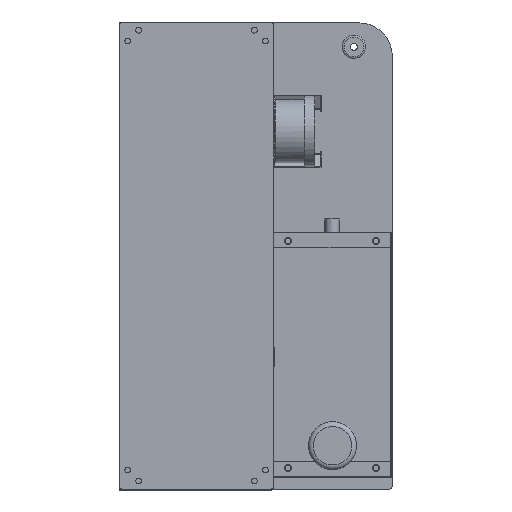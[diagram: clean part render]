
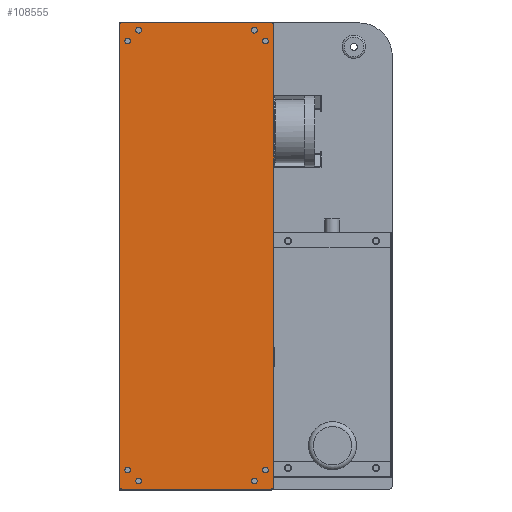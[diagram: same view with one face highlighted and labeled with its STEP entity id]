
A CAD part, top view. The second image highlights one B-rep face of the part: STEP entity #108555.
In plain terms, the highlighted planar face has unit normal (0, 0, 1).
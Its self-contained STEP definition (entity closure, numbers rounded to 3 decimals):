
#2511=FACE_BOUND('',#17659,.T.);
#2512=FACE_BOUND('',#17660,.T.);
#2513=FACE_BOUND('',#17661,.T.);
#2514=FACE_BOUND('',#17662,.T.);
#2515=FACE_BOUND('',#17663,.T.);
#2516=FACE_BOUND('',#17664,.T.);
#2517=FACE_BOUND('',#17665,.T.);
#2518=FACE_BOUND('',#17666,.T.);
#4809=CIRCLE('',#116287,3.);
#4811=CIRCLE('',#116291,3.);
#4813=CIRCLE('',#116295,3.);
#4815=CIRCLE('',#116299,3.);
#4817=CIRCLE('',#116302,3.);
#4819=CIRCLE('',#116305,3.);
#4821=CIRCLE('',#116308,3.);
#4823=CIRCLE('',#116311,3.);
#4825=CIRCLE('',#116314,3.);
#4827=CIRCLE('',#116317,3.);
#4829=CIRCLE('',#116320,3.);
#4831=CIRCLE('',#116323,3.);
#10996=FACE_OUTER_BOUND('',#17658,.T.);
#17658=EDGE_LOOP('',(#98763,#98764,#98765,#98766,#98767,#98768,#98769,#98770));
#17659=EDGE_LOOP('',(#98771));
#17660=EDGE_LOOP('',(#98772));
#17661=EDGE_LOOP('',(#98773));
#17662=EDGE_LOOP('',(#98774));
#17663=EDGE_LOOP('',(#98775));
#17664=EDGE_LOOP('',(#98776));
#17665=EDGE_LOOP('',(#98777));
#17666=EDGE_LOOP('',(#98778));
#30088=LINE('',#190266,#42523);
#30092=LINE('',#190278,#42527);
#30096=LINE('',#190290,#42531);
#30100=LINE('',#190302,#42535);
#42523=VECTOR('',#143895,1.);
#42527=VECTOR('',#143907,1.);
#42531=VECTOR('',#143919,1.);
#42535=VECTOR('',#143931,1.);
#52719=VERTEX_POINT('',#190260);
#52721=VERTEX_POINT('',#190264);
#52723=VERTEX_POINT('',#190270);
#52725=VERTEX_POINT('',#190276);
#52727=VERTEX_POINT('',#190282);
#52729=VERTEX_POINT('',#190288);
#52731=VERTEX_POINT('',#190294);
#52733=VERTEX_POINT('',#190300);
#52735=VERTEX_POINT('',#190309);
#52737=VERTEX_POINT('',#190315);
#52739=VERTEX_POINT('',#190321);
#52741=VERTEX_POINT('',#190327);
#52743=VERTEX_POINT('',#190333);
#52745=VERTEX_POINT('',#190339);
#52747=VERTEX_POINT('',#190345);
#52749=VERTEX_POINT('',#190351);
#68056=EDGE_CURVE('',#52719,#52721,#30088,.T.);
#68059=EDGE_CURVE('',#52721,#52723,#4809,.T.);
#68062=EDGE_CURVE('',#52723,#52725,#30092,.T.);
#68065=EDGE_CURVE('',#52725,#52727,#4811,.T.);
#68068=EDGE_CURVE('',#52727,#52729,#30096,.T.);
#68071=EDGE_CURVE('',#52729,#52731,#4813,.T.);
#68074=EDGE_CURVE('',#52731,#52733,#30100,.T.);
#68076=EDGE_CURVE('',#52733,#52719,#4815,.T.);
#68079=EDGE_CURVE('',#52735,#52735,#4817,.T.);
#68082=EDGE_CURVE('',#52737,#52737,#4819,.T.);
#68085=EDGE_CURVE('',#52739,#52739,#4821,.T.);
#68088=EDGE_CURVE('',#52741,#52741,#4823,.T.);
#68091=EDGE_CURVE('',#52743,#52743,#4825,.T.);
#68094=EDGE_CURVE('',#52745,#52745,#4827,.T.);
#68097=EDGE_CURVE('',#52747,#52747,#4829,.T.);
#68100=EDGE_CURVE('',#52749,#52749,#4831,.T.);
#98763=ORIENTED_EDGE('',*,*,#68056,.T.);
#98764=ORIENTED_EDGE('',*,*,#68059,.T.);
#98765=ORIENTED_EDGE('',*,*,#68062,.T.);
#98766=ORIENTED_EDGE('',*,*,#68065,.T.);
#98767=ORIENTED_EDGE('',*,*,#68068,.T.);
#98768=ORIENTED_EDGE('',*,*,#68071,.T.);
#98769=ORIENTED_EDGE('',*,*,#68074,.T.);
#98770=ORIENTED_EDGE('',*,*,#68076,.T.);
#98771=ORIENTED_EDGE('',*,*,#68079,.F.);
#98772=ORIENTED_EDGE('',*,*,#68082,.F.);
#98773=ORIENTED_EDGE('',*,*,#68085,.F.);
#98774=ORIENTED_EDGE('',*,*,#68088,.F.);
#98775=ORIENTED_EDGE('',*,*,#68091,.F.);
#98776=ORIENTED_EDGE('',*,*,#68094,.F.);
#98777=ORIENTED_EDGE('',*,*,#68097,.F.);
#98778=ORIENTED_EDGE('',*,*,#68100,.F.);
#103143=PLANE('',#116325);
#108555=ADVANCED_FACE('',(#10996,#2511,#2512,#2513,#2514,#2515,#2516,#2517,
#2518),#103143,.T.);
#116287=AXIS2_PLACEMENT_3D('',#190272,#143901,#143902);
#116291=AXIS2_PLACEMENT_3D('',#190284,#143913,#143914);
#116295=AXIS2_PLACEMENT_3D('',#190296,#143925,#143926);
#116299=AXIS2_PLACEMENT_3D('',#190305,#143936,#143937);
#116302=AXIS2_PLACEMENT_3D('',#190311,#143943,#143944);
#116305=AXIS2_PLACEMENT_3D('',#190317,#143950,#143951);
#116308=AXIS2_PLACEMENT_3D('',#190323,#143957,#143958);
#116311=AXIS2_PLACEMENT_3D('',#190329,#143964,#143965);
#116314=AXIS2_PLACEMENT_3D('',#190335,#143971,#143972);
#116317=AXIS2_PLACEMENT_3D('',#190341,#143978,#143979);
#116320=AXIS2_PLACEMENT_3D('',#190347,#143985,#143986);
#116323=AXIS2_PLACEMENT_3D('',#190353,#143992,#143993);
#116325=AXIS2_PLACEMENT_3D('',#190355,#143996,#143997);
#143895=DIRECTION('',(0.,1.,0.));
#143901=DIRECTION('center_axis',(0.,0.,1.));
#143902=DIRECTION('ref_axis',(-1.,0.,0.));
#143907=DIRECTION('',(-1.,0.,0.));
#143913=DIRECTION('center_axis',(0.,0.,1.));
#143914=DIRECTION('ref_axis',(-1.,0.,0.));
#143919=DIRECTION('',(0.,-1.,0.));
#143925=DIRECTION('center_axis',(0.,0.,1.));
#143926=DIRECTION('ref_axis',(-1.,0.,0.));
#143931=DIRECTION('',(1.,0.,0.));
#143936=DIRECTION('center_axis',(0.,0.,1.));
#143937=DIRECTION('ref_axis',(-1.,0.,0.));
#143943=DIRECTION('center_axis',(0.,0.,1.));
#143944=DIRECTION('ref_axis',(-1.,0.,0.));
#143950=DIRECTION('center_axis',(0.,0.,1.));
#143951=DIRECTION('ref_axis',(-1.,0.,0.));
#143957=DIRECTION('center_axis',(0.,0.,1.));
#143958=DIRECTION('ref_axis',(-1.,0.,0.));
#143964=DIRECTION('center_axis',(0.,0.,1.));
#143965=DIRECTION('ref_axis',(-1.,0.,0.));
#143971=DIRECTION('center_axis',(0.,0.,1.));
#143972=DIRECTION('ref_axis',(-1.,0.,0.));
#143978=DIRECTION('center_axis',(0.,0.,1.));
#143979=DIRECTION('ref_axis',(-1.,0.,0.));
#143985=DIRECTION('center_axis',(0.,0.,1.));
#143986=DIRECTION('ref_axis',(-1.,0.,0.));
#143992=DIRECTION('center_axis',(0.,0.,1.));
#143993=DIRECTION('ref_axis',(-1.,0.,0.));
#143996=DIRECTION('center_axis',(0.,0.,1.));
#143997=DIRECTION('ref_axis',(-1.,0.,0.));
#190260=CARTESIAN_POINT('',(80.,-319.,495.));
#190264=CARTESIAN_POINT('',(80.,160.5,495.));
#190266=CARTESIAN_POINT('',(80.,-79.25,495.));
#190270=CARTESIAN_POINT('',(77.,163.5,495.));
#190272=CARTESIAN_POINT('Origin',(77.,160.5,495.));
#190276=CARTESIAN_POINT('',(-77.,163.5,495.));
#190278=CARTESIAN_POINT('',(0.,163.5,495.));
#190282=CARTESIAN_POINT('',(-80.,160.5,495.));
#190284=CARTESIAN_POINT('Origin',(-77.,160.5,495.));
#190288=CARTESIAN_POINT('',(-80.,-319.,495.));
#190290=CARTESIAN_POINT('',(-80.,-79.25,495.));
#190294=CARTESIAN_POINT('',(-77.,-322.,495.));
#190296=CARTESIAN_POINT('Origin',(-77.,-319.,495.));
#190300=CARTESIAN_POINT('',(77.,-322.,495.));
#190302=CARTESIAN_POINT('',(0.,-322.,495.));
#190305=CARTESIAN_POINT('Origin',(77.,-319.,495.));
#190309=CARTESIAN_POINT('',(-68.5,143.686,495.));
#190311=CARTESIAN_POINT('Origin',(-71.5,143.686,495.));
#190315=CARTESIAN_POINT('',(-57.186,155.,495.));
#190317=CARTESIAN_POINT('Origin',(-60.186,155.,495.));
#190321=CARTESIAN_POINT('',(63.186,155.,495.));
#190323=CARTESIAN_POINT('Origin',(60.186,155.,495.));
#190327=CARTESIAN_POINT('',(74.5,143.686,495.));
#190329=CARTESIAN_POINT('Origin',(71.5,143.686,495.));
#190333=CARTESIAN_POINT('',(74.5,-302.186,495.));
#190335=CARTESIAN_POINT('Origin',(71.5,-302.186,495.));
#190339=CARTESIAN_POINT('',(63.186,-313.5,495.));
#190341=CARTESIAN_POINT('Origin',(60.186,-313.5,495.));
#190345=CARTESIAN_POINT('',(-57.186,-313.5,495.));
#190347=CARTESIAN_POINT('Origin',(-60.186,-313.5,495.));
#190351=CARTESIAN_POINT('',(-68.5,-302.186,495.));
#190353=CARTESIAN_POINT('Origin',(-71.5,-302.186,495.));
#190355=CARTESIAN_POINT('Origin',(0.,0.,
495.));
